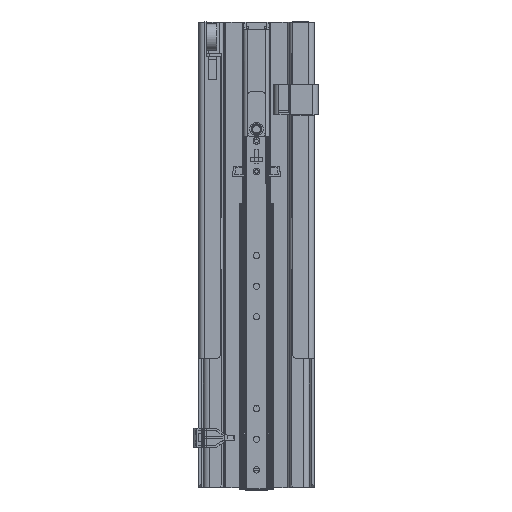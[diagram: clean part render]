
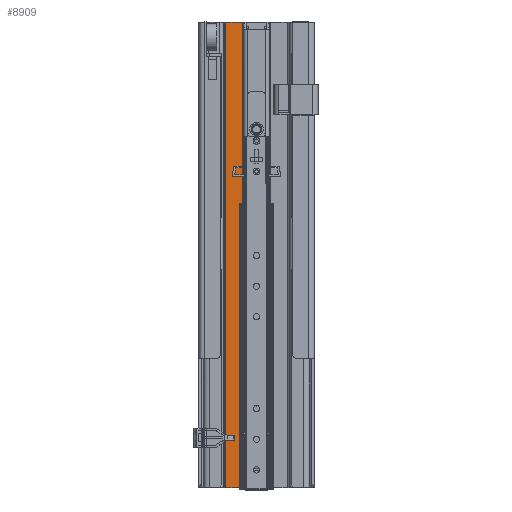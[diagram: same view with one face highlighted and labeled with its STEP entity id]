
A CAD part, top view. The second image highlights one B-rep face of the part: STEP entity #8909.
In plain terms, the highlighted planar face has unit normal (0, 0, 1).
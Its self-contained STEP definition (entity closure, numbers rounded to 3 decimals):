
#8909=ADVANCED_FACE('',(#15884),#15885,.F.);
#15884=FACE_OUTER_BOUND('',#26179,.T.);
#15885=PLANE('',#26180);
#26179=EDGE_LOOP('',(#33549,#33550,#33551,#33552));
#26180=AXIS2_PLACEMENT_3D('',#33553,#33554,#33555);
#33549=ORIENTED_EDGE('',*,*,#46168,.T.);
#33550=ORIENTED_EDGE('',*,*,#46143,.F.);
#33551=ORIENTED_EDGE('',*,*,#46161,.T.);
#33552=ORIENTED_EDGE('',*,*,#46175,.F.);
#33553=CARTESIAN_POINT('',(9.393,242.558,15.));
#33554=DIRECTION('',(0.,0.,-1.0));
#33555=DIRECTION('',(0.,-1.0,0.));
#46143=EDGE_CURVE('',#52561,#52559,#52563,.T.);
#46161=EDGE_CURVE('',#52561,#52589,#52590,.T.);
#46168=EDGE_CURVE('',#52600,#52559,#52601,.T.);
#46175=EDGE_CURVE('',#52600,#52589,#52612,.T.);
#52559=VERTEX_POINT('',#57843);
#52561=VERTEX_POINT('',#57845);
#52563=LINE('',#57847,#57848);
#52589=VERTEX_POINT('',#57881);
#52590=LINE('',#57882,#57883);
#52600=VERTEX_POINT('',#57896);
#52601=LINE('',#57897,#57898);
#52612=LINE('',#57912,#57913);
#57843=CARTESIAN_POINT('',(-32.134,490.75,15.));
#57845=CARTESIAN_POINT('',(-32.134,3.75,15.));
#57847=CARTESIAN_POINT('',(-32.134,366.654,15.));
#57848=VECTOR('',#63945,10.0);
#57881=CARTESIAN_POINT('',(-14.681,3.75,15.));
#57882=CARTESIAN_POINT('',(-64.357,3.75,15.));
#57883=VECTOR('',#63968,10.0);
#57896=CARTESIAN_POINT('',(-14.681,490.75,15.));
#57897=CARTESIAN_POINT('',(-11.107,490.75,15.));
#57898=VECTOR('',#63978,10.0);
#57912=CARTESIAN_POINT('',(-14.681,123.154,15.));
#57913=VECTOR('',#63988,10.0);
#63945=DIRECTION('',(0.,1.0,0.));
#63968=DIRECTION('',(1.0,0.,0.));
#63978=DIRECTION('',(-1.0,0.,0.));
#63988=DIRECTION('',(0.,-1.0,0.));
